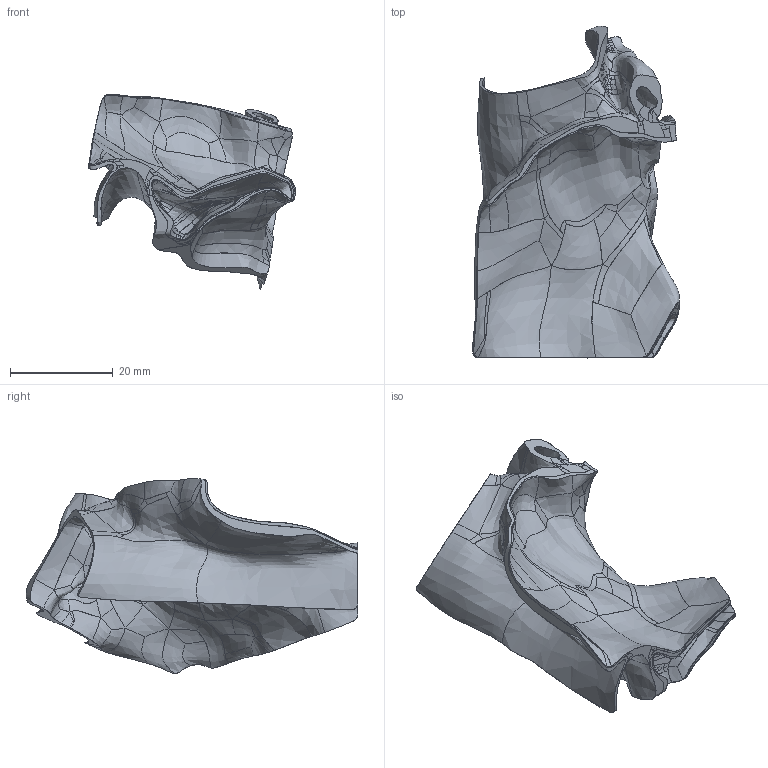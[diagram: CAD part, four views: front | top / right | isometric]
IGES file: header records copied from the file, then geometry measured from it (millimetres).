
Global section: file name: C:\FDA Main\FDA-Septal-Models\6216810\6216810.phase.40.igs; native system: Rhinoceros ( Mar  9 2011 ); preprocessor: Trout Lake IGES 012 Mar  9 2011; date: 120611.031305; units: millimetre
Bounding box: 40.32 x 64.62 x 37.97 mm (x, y, z)
Surface area: 9237.7 mm2 (no closed solid volume)
Topology: 0 solids, 0 shells, 496 faces, 1984 edges, 1984 vertices
Faces by surface type: bspline 496
